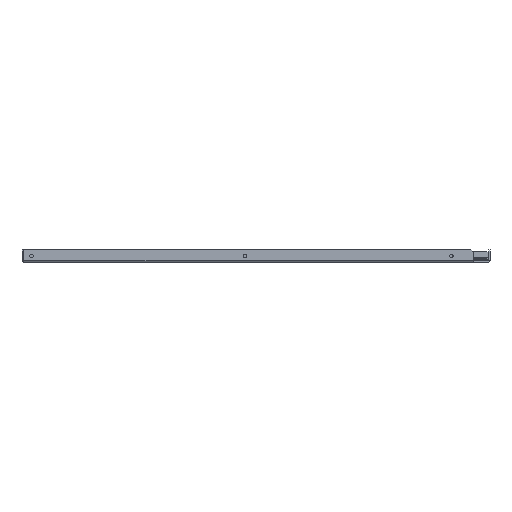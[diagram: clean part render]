
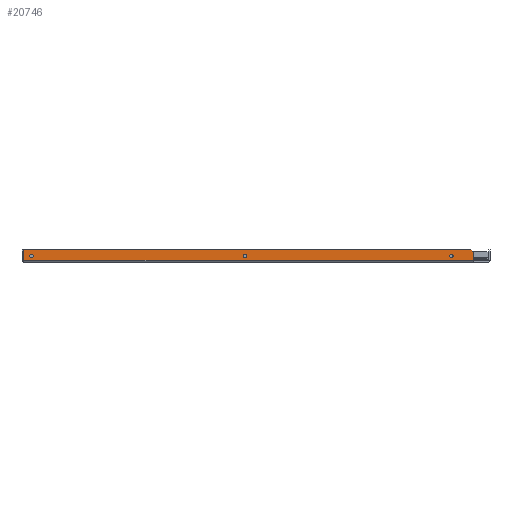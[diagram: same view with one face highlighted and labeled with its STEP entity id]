
A CAD part, left-side view. The second image highlights one B-rep face of the part: STEP entity #20746.
In plain terms, the highlighted planar face has unit normal (-1, 0, 0).
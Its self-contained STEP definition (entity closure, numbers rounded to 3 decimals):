
#9066=CARTESIAN_POINT(' ',(-234.5,-263.25,10.5));
#9067=VERTEX_POINT(' ',#9066);
#9081=CARTESIAN_POINT(' ',(-234.5,-263.25,10.5));
#9086=DIRECTION(' ',(0.,0.,-1.));
#9091=VECTOR(' ',#9086,1.);
#9096=LINE('',#9081,#9091);
#9101=CARTESIAN_POINT(' ',(-234.5,-263.25,0.6));
#9102=VERTEX_POINT(' ',#9101);
#9106=EDGE_CURVE(' ',#9067,#9102,#9096,.T.);
#20146=CARTESIAN_POINT(' ',(-234.5,281.043,0.6));
#20147=VERTEX_POINT(' ',#20146);
#20246=CARTESIAN_POINT(' ',(-234.5,-263.25,10.5));
#20251=DIRECTION(' ',(0.,0.707,0.707));
#20256=VECTOR(' ',#20251,1.);
#20261=LINE('',#20246,#20256);
#20266=CARTESIAN_POINT(' ',(-234.5,-260.25,13.5));
#20267=VERTEX_POINT(' ',#20266);
#20271=EDGE_CURVE(' ',#9067,#20267,#20261,.T.);
#20336=DIRECTION(' ',(-1.,-0.,0.));
#20341=CARTESIAN_POINT(' ',(-234.5,-263.25,13.5));
#20346=DIRECTION(' ',(-0.,1.,0.));
#20351=AXIS2_PLACEMENT_3D(' ',#20341,#20336,#20346);
#20356=PLANE('NONE',#20351);
#20361=ORIENTED_EDGE(' ',*,*,#9106,.F.);
#20366=ORIENTED_EDGE(' ',*,*,#20271,.T.);
#20371=CARTESIAN_POINT(' ',(-234.5,-260.25,13.5));
#20376=DIRECTION(' ',(0.,1.,0.));
#20381=VECTOR(' ',#20376,1.);
#20386=LINE('',#20371,#20381);
#20391=CARTESIAN_POINT(' ',(-234.5,281.043,13.5));
#20392=VERTEX_POINT(' ',#20391);
#20396=EDGE_CURVE(' ',#20267,#20392,#20386,.T.);
#20401=ORIENTED_EDGE(' ',*,*,#20396,.T.);
#20406=CARTESIAN_POINT(' ',(-234.5,281.043,0.6));
#20411=DIRECTION(' ',(0.,0.,1.));
#20416=VECTOR(' ',#20411,1.);
#20421=LINE('',#20406,#20416);
#20426=EDGE_CURVE(' ',#20147,#20392,#20421,.T.);
#20431=ORIENTED_EDGE(' ',*,*,#20426,.F.);
#20436=CARTESIAN_POINT(' ',(-234.5,-263.25,0.6));
#20441=DIRECTION(' ',(0.,1.,0.));
#20446=VECTOR(' ',#20441,1.);
#20451=LINE('',#20436,#20446);
#20456=EDGE_CURVE(' ',#9102,#20147,#20451,.T.);
#20461=ORIENTED_EDGE(' ',*,*,#20456,.F.);
#20466=EDGE_LOOP(' ',(#20361,#20366,#20401,#20431,#20461));
#20471=FACE_OUTER_BOUND(' ',#20466,.T.);
#20476=CARTESIAN_POINT(' ',(-234.5,271.75,6.));
#20481=DIRECTION(' ',(-1.,-0.,0.));
#20486=DIRECTION(' ',(0.,0.,1.));
#20491=AXIS2_PLACEMENT_3D(' ',#20476,#20481,#20486);
#20496=CIRCLE('',#20491,2.1);
#20501=CARTESIAN_POINT(' ',(-234.5,271.75,8.1));
#20502=VERTEX_POINT(' ',#20501);
#20506=CARTESIAN_POINT(' ',(-234.5,271.75,3.9));
#20507=VERTEX_POINT(' ',#20506);
#20511=EDGE_CURVE(' ',#20502,#20507,#20496,.T.);
#20516=ORIENTED_EDGE(' ',*,*,#20511,.F.);
#20521=CARTESIAN_POINT(' ',(-234.5,271.75,6.));
#20526=DIRECTION(' ',(-1.,0.,0.));
#20531=DIRECTION(' ',(0.,0.,-1.));
#20536=AXIS2_PLACEMENT_3D(' ',#20521,#20526,#20531);
#20541=CIRCLE('',#20536,2.1);
#20546=EDGE_CURVE(' ',#20507,#20502,#20541,.T.);
#20551=ORIENTED_EDGE(' ',*,*,#20546,.F.);
#20556=EDGE_LOOP(' ',(#20516,#20551));
#20561=FACE_BOUND(' ',#20556,.T.);
#20566=CARTESIAN_POINT(' ',(-234.5,-236.5,6.));
#20571=DIRECTION(' ',(-1.,-0.,0.));
#20576=DIRECTION(' ',(0.,0.,1.));
#20581=AXIS2_PLACEMENT_3D(' ',#20566,#20571,#20576);
#20586=CIRCLE('',#20581,2.1);
#20591=CARTESIAN_POINT(' ',(-234.5,-236.5,8.1));
#20592=VERTEX_POINT(' ',#20591);
#20596=CARTESIAN_POINT(' ',(-234.5,-236.5,3.9));
#20597=VERTEX_POINT(' ',#20596);
#20601=EDGE_CURVE(' ',#20592,#20597,#20586,.T.);
#20606=ORIENTED_EDGE(' ',*,*,#20601,.F.);
#20611=CARTESIAN_POINT(' ',(-234.5,-236.5,6.));
#20616=DIRECTION(' ',(-1.,0.,0.));
#20621=DIRECTION(' ',(0.,0.,-1.));
#20626=AXIS2_PLACEMENT_3D(' ',#20611,#20616,#20621);
#20631=CIRCLE('',#20626,2.1);
#20636=EDGE_CURVE(' ',#20597,#20592,#20631,.T.);
#20641=ORIENTED_EDGE(' ',*,*,#20636,.F.);
#20646=EDGE_LOOP(' ',(#20606,#20641));
#20651=FACE_BOUND(' ',#20646,.T.);
#20656=CARTESIAN_POINT(' ',(-234.5,13.5,6.));
#20661=DIRECTION(' ',(-1.,-0.,0.));
#20666=DIRECTION(' ',(0.,0.,1.));
#20671=AXIS2_PLACEMENT_3D(' ',#20656,#20661,#20666);
#20676=CIRCLE('',#20671,2.1);
#20681=CARTESIAN_POINT(' ',(-234.5,13.5,8.1));
#20682=VERTEX_POINT(' ',#20681);
#20686=CARTESIAN_POINT(' ',(-234.5,13.5,3.9));
#20687=VERTEX_POINT(' ',#20686);
#20691=EDGE_CURVE(' ',#20682,#20687,#20676,.T.);
#20696=ORIENTED_EDGE(' ',*,*,#20691,.F.);
#20701=CARTESIAN_POINT(' ',(-234.5,13.5,6.));
#20706=DIRECTION(' ',(-1.,0.,0.));
#20711=DIRECTION(' ',(0.,0.,-1.));
#20716=AXIS2_PLACEMENT_3D(' ',#20701,#20706,#20711);
#20721=CIRCLE('',#20716,2.1);
#20726=EDGE_CURVE(' ',#20687,#20682,#20721,.T.);
#20731=ORIENTED_EDGE(' ',*,*,#20726,.F.);
#20736=EDGE_LOOP(' ',(#20696,#20731));
#20741=FACE_BOUND(' ',#20736,.T.);
#20746=ADVANCED_FACE('NONE',(#20471,#20561,#20651,#20741),#20356,.T.);
